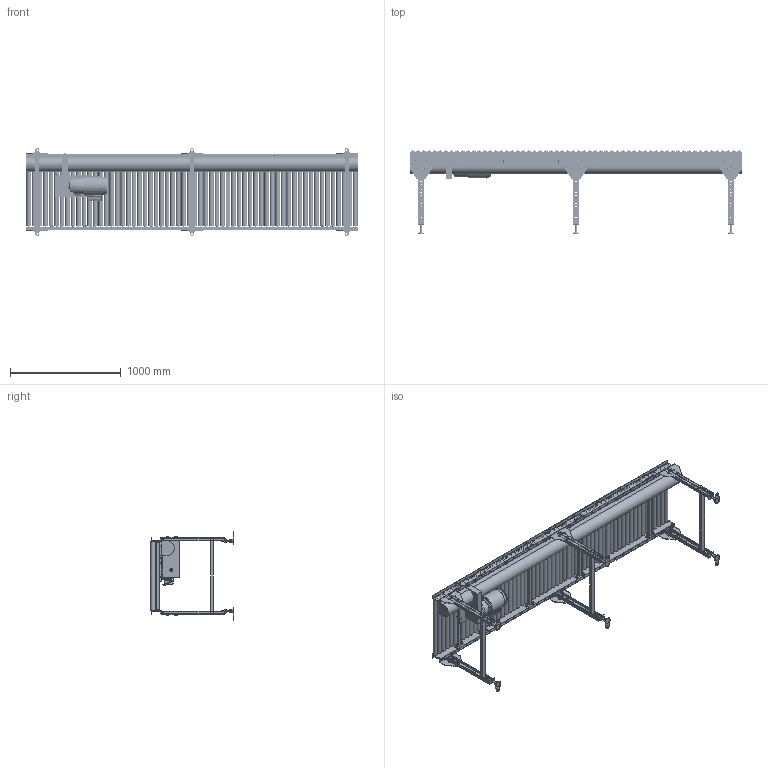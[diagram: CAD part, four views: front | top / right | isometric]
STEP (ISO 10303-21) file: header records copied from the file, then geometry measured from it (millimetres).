
FILE_DESCRIPTION( (''), '2;1');
FILE_NAME ('WEB-MCD-42-630-50-300-D-L.stp','2026-03-19T09:48:08',(''),(''),'spGate 20.6.2 (****-****-****-****)','','');
FILE_SCHEMA (('AUTOMOTIVE_DESIGN'));
Length unit declared in the file: millimetre
Products named in the file (192): WEB-MCD-42-630-50-300-D-L; TEMP_X_T-prt0; TEMP_X_T-prt1; TEMP_X_T-prt2; TEMP_X_T-prt3; TEMP_X_T-prt4; TEMP_X_T-prt5; TEMP_X_T-prt6; TEMP_X_T-prt7; TEMP_X_T-prt8; TEMP_X_T-prt9; TEMP_X_T-prt10; TEMP_X_T-prt11; TEMP_X_T-prt12; TEMP_X_T-prt13; TEMP_X_T-prt14; TEMP_X_T-prt15; TEMP_X_T-prt16; TEMP_X_T-prt17; TEMP_X_T-prt18; TEMP_X_T-prt19; TEMP_X_T-prt20; TEMP_X_T-prt21; TEMP_X_T-prt22; TEMP_X_T-prt23; TEMP_X_T-prt24; TEMP_X_T-prt25; TEMP_X_T-prt26; TEMP_X_T-prt27; TEMP_X_T-prt28; TEMP_X_T-prt29; TEMP_X_T-prt30; TEMP_X_T-prt31; TEMP_X_T-prt32; TEMP_X_T-prt33; TEMP_X_T-prt34; TEMP_X_T-prt35; TEMP_X_T-prt36; TEMP_X_T-prt37; TEMP_X_T-prt38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
Assembly tree (191 placements, depth 2):
  WEB-MCD-42-630-50-300-D-L
    TEMP_X_T-prt0
    TEMP_X_T-prt1
    TEMP_X_T-prt2
    TEMP_X_T-prt3
    TEMP_X_T-prt4
    TEMP_X_T-prt5
    TEMP_X_T-prt6
    TEMP_X_T-prt7
    TEMP_X_T-prt8
    TEMP_X_T-prt9
    TEMP_X_T-prt10
    TEMP_X_T-prt11
    TEMP_X_T-prt12
    TEMP_X_T-prt13
    TEMP_X_T-prt14
    TEMP_X_T-prt15
    TEMP_X_T-prt16
    TEMP_X_T-prt17
    TEMP_X_T-prt18
    TEMP_X_T-prt19
    TEMP_X_T-prt20
    TEMP_X_T-prt21
    TEMP_X_T-prt22
    TEMP_X_T-prt23
    TEMP_X_T-prt24
    TEMP_X_T-prt25
    TEMP_X_T-prt26
    TEMP_X_T-prt27
    TEMP_X_T-prt28
    TEMP_X_T-prt29
    TEMP_X_T-prt30
    TEMP_X_T-prt31
    TEMP_X_T-prt32
    TEMP_X_T-prt33
    TEMP_X_T-prt34
    TEMP_X_T-prt35
    TEMP_X_T-prt36
    TEMP_X_T-prt37
    TEMP_X_T-prt38
    TEMP_X_T-prt39
    TEMP_X_T-prt40
    TEMP_X_T-prt41
    TEMP_X_T-prt42
    TEMP_X_T-prt43
    TEMP_X_T-prt44
    TEMP_X_T-prt45
    TEMP_X_T-prt46
    TEMP_X_T-prt47
    TEMP_X_T-prt48
    TEMP_X_T-prt49
    TEMP_X_T-prt50
    TEMP_X_T-prt51
    TEMP_X_T-prt52
    TEMP_X_T-prt53
    TEMP_X_T-prt54
    TEMP_X_T-prt55
    TEMP_X_T-prt56
    TEMP_X_T-prt57
    TEMP_X_T-prt58
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Bounding box: 3000 x 750 x 797 mm (x, y, z)
Volume: 114491902 mm3; surface area: 11009514.6 mm2
Topology: 191 solids, 221 shells, 4257 faces, 10503 edges, 7066 vertices
Faces by surface type: plane 3303, cylinder 865, bspline 88, sphere 1
Full cylindrical faces by diameter (mm): 3.4 x8, 6 x1, 6.647 x1, 6.94 x3, 7 x1, 8 x10, 8.5 x4, 9 x4, 10 x118, 10.2 x5, 10.5 x171, 11 x68, 12 x124, 13 x24, 16 x10, 18 x8, 18.4 x45, 18.5 x12, 21 x22, 22 x5, 27 x1, 28 x1, 31 x1, 42.7 x60, 63 x1, 149.6 x1, 153 x1
Entity records: 221324 total; most frequent: CARTESIAN_POINT 26738, DIRECTION 22177, ORIENTED_EDGE 21004, COLOUR_RGB 14950, PRESENTATION_STYLE_ASSIGNMENT 14950, STYLED_ITEM 14950, EDGE_CURVE 10502, DRAUGHTING_PRE_DEFINED_CURVE_FONT 10502
